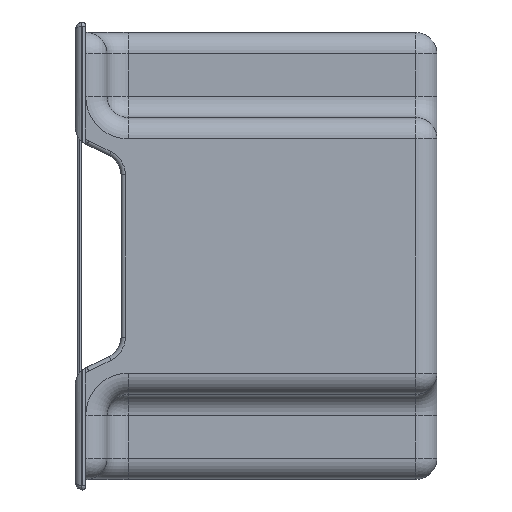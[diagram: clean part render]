
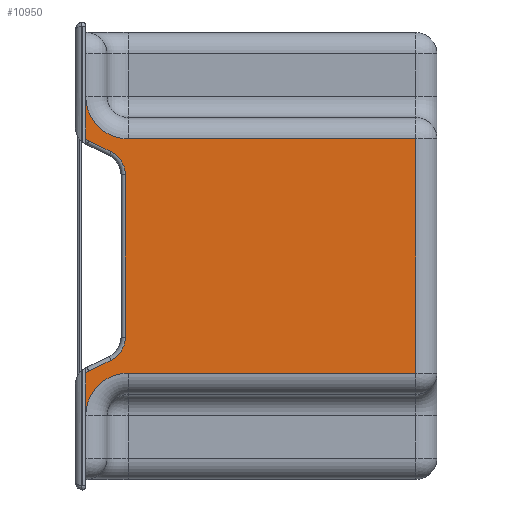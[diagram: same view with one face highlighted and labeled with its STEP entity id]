
A CAD part, left-side view. The second image highlights one B-rep face of the part: STEP entity #10950.
In plain terms, the highlighted planar face has unit normal (-1, 0, 0).
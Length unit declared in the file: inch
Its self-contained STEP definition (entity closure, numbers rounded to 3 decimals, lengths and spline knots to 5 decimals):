
#86 = CARTESIAN_POINT ( 'NONE',  ( 0.25, 0.52765, 6.57002 ) ) ;
#157 = ORIENTED_EDGE ( 'NONE', *, *, #2538, .F. ) ;
#170 = DIRECTION ( 'NONE',  ( -1., 0., 0. ) ) ;
#208 = ORIENTED_EDGE ( 'NONE', *, *, #2572, .T. ) ;
#548 = CIRCLE ( 'NONE', #1623, 0.6 ) ;
#666 = CARTESIAN_POINT ( 'NONE',  ( 0.25, 0., 8.25 ) ) ;
#749 = VERTEX_POINT ( 'NONE', #9685 ) ;
#752 = DIRECTION ( 'NONE',  ( 1., 0., 0. ) ) ;
#823 = CARTESIAN_POINT ( 'NONE',  ( 0.25, 7.25, 8.25 ) ) ;
#875 = ORIENTED_EDGE ( 'NONE', *, *, #2398, .T. ) ;
#920 = VERTEX_POINT ( 'NONE', #2660 ) ;
#1063 = DIRECTION ( 'NONE',  ( 0., 0., 1. ) ) ;
#1145 = LINE ( 'NONE', #666, #5851 ) ;
#1221 = VECTOR ( 'NONE', #1063, 39.37008 ) ;
#1391 = ORIENTED_EDGE ( 'NONE', *, *, #2466, .T. ) ;
#1423 = LINE ( 'NONE', #8619, #3840 ) ;
#1434 = LINE ( 'NONE', #2985, #3571 ) ;
#1623 = AXIS2_PLACEMENT_3D ( 'NONE', #7022, #1769, #7899 ) ;
#1769 = DIRECTION ( 'NONE',  ( -1., 0., 0. ) ) ;
#1999 = CIRCLE ( 'NONE', #4040, 1. ) ;
#2020 = CARTESIAN_POINT ( 'NONE',  ( 0.25, 7.25, 1.75 ) ) ;
#2376 = PLANE ( 'NONE',  #9064 ) ;
#2398 = EDGE_CURVE ( 'NONE', #8668, #3913, #6669, .T. ) ;
#2411 = EDGE_CURVE ( 'NONE', #3913, #10382, #10747, .T. ) ;
#2414 = EDGE_CURVE ( 'NONE', #5080, #9005, #1999, .T. ) ;
#2425 = VECTOR ( 'NONE', #3555, 39.37008 ) ;
#2441 = EDGE_CURVE ( 'NONE', #9005, #2675, #10466, .T. ) ;
#2466 = EDGE_CURVE ( 'NONE', #2675, #920, #1434, .T. ) ;
#2484 = EDGE_CURVE ( 'NONE', #2569, #920, #1145, .T. ) ;
#2495 = EDGE_CURVE ( 'NONE', #4382, #2569, #3279, .T. ) ;
#2502 = EDGE_CURVE ( 'NONE', #9561, #10894, #5578, .T. ) ;
#2538 = EDGE_CURVE ( 'NONE', #749, #9561, #9668, .T. ) ;
#2552 = EDGE_CURVE ( 'NONE', #3044, #749, #548, .T. ) ;
#2556 = EDGE_CURVE ( 'NONE', #3044, #5487, #7074, .T. ) ;
#2569 = VERTEX_POINT ( 'NONE', #823 ) ;
#2572 = EDGE_CURVE ( 'NONE', #5487, #8668, #9121, .T. ) ;
#2660 = CARTESIAN_POINT ( 'NONE',  ( 0.25, 0.5, 8.25 ) ) ;
#2675 = VERTEX_POINT ( 'NONE', #4018 ) ;
#2866 = EDGE_CURVE ( 'NONE', #10382, #5080, #1423, .T. ) ;
#2941 = DIRECTION ( 'NONE',  ( 0., 0., -1. ) ) ;
#2985 = CARTESIAN_POINT ( 'NONE',  ( 0.25, 0.5, 5.50004 ) ) ;
#3019 = CARTESIAN_POINT ( 'NONE',  ( 0.25, 8.17692, 8.20217 ) ) ;
#3044 = VERTEX_POINT ( 'NONE', #6661 ) ;
#3136 = FACE_OUTER_BOUND ( 'NONE', #8909, .T. ) ;
#3229 = AXIS2_PLACEMENT_3D ( 'NONE', #5526, #170, #6401 ) ;
#3279 = CIRCLE ( 'NONE', #11363, 1. ) ;
#3342 = ORIENTED_EDGE ( 'NONE', *, *, #2411, .T. ) ;
#3352 = CARTESIAN_POINT ( 'NONE',  ( 0.25, 0., 2.75 ) ) ;
#3480 = CARTESIAN_POINT ( 'NONE',  ( 0.25, 7.25, 9.25 ) ) ;
#3518 = CARTESIAN_POINT ( 'NONE',  ( 0.25, 0.52765, 4.42998 ) ) ;
#3555 = DIRECTION ( 'NONE',  ( 0., 0., -1. ) ) ;
#3571 = VECTOR ( 'NONE', #10295, 39.37008 ) ;
#3840 = VECTOR ( 'NONE', #6870, 39.37008 ) ;
#3913 = VERTEX_POINT ( 'NONE', #5127 ) ;
#4018 = CARTESIAN_POINT ( 'NONE',  ( 0.25, 0.5, 2.75 ) ) ;
#4040 = AXIS2_PLACEMENT_3D ( 'NONE', #2020, #8148, #2941 ) ;
#4298 = CARTESIAN_POINT ( 'NONE',  ( 0.25, 8.25, 9.25 ) ) ;
#4326 = DIRECTION ( 'NONE',  ( 0., 0., 1. ) ) ;
#4382 = VERTEX_POINT ( 'NONE', #4298 ) ;
#4468 = CARTESIAN_POINT ( 'NONE',  ( 0.25, 8.25, 2.75133 ) ) ;
#4481 = DIRECTION ( 'NONE',  ( 1., 0., 0. ) ) ;
#4617 = CARTESIAN_POINT ( 'NONE',  ( 0.25, 8.25, 5.49996 ) ) ;
#5034 = VECTOR ( 'NONE', #6105, 39.37008 ) ;
#5080 = VERTEX_POINT ( 'NONE', #6953 ) ;
#5098 = ORIENTED_EDGE ( 'NONE', *, *, #2495, .F. ) ;
#5127 = CARTESIAN_POINT ( 'NONE',  ( 0.25, 8.17692, 2.79783 ) ) ;
#5320 = CARTESIAN_POINT ( 'NONE',  ( 0.25, 7.25, 2.75 ) ) ;
#5487 = VERTEX_POINT ( 'NONE', #6025 ) ;
#5526 = CARTESIAN_POINT ( 'NONE',  ( 0.25, 8., 2.43908 ) ) ;
#5537 = ORIENTED_EDGE ( 'NONE', *, *, #2552, .F. ) ;
#5578 = CIRCLE ( 'NONE', #8823, 0.4 ) ;
#5851 = VECTOR ( 'NONE', #9464, 39.37008 ) ;
#5904 = DIRECTION ( 'NONE',  ( 0., 0., -1. ) ) ;
#5989 = EDGE_CURVE ( 'NONE', #10894, #4382, #7965, .T. ) ;
#6025 = CARTESIAN_POINT ( 'NONE',  ( 0.25, 7.31998, 3.59353 ) ) ;
#6066 = CARTESIAN_POINT ( 'NONE',  ( 0.25, 8., 8.56092 ) ) ;
#6105 = DIRECTION ( 'NONE',  ( 0., 0.897, 0.442 ) ) ;
#6120 = VECTOR ( 'NONE', #9428, 39.37008 ) ;
#6401 = DIRECTION ( 'NONE',  ( 0., 0., -1. ) ) ;
#6404 = VECTOR ( 'NONE', #10694, 39.37008 ) ;
#6661 = CARTESIAN_POINT ( 'NONE',  ( 0.25, 7.31998, 7.40647 ) ) ;
#6669 = LINE ( 'NONE', #86, #6404 ) ;
#6690 = ORIENTED_EDGE ( 'NONE', *, *, #2866, .T. ) ;
#6870 = DIRECTION ( 'NONE',  ( 0., 0., -1. ) ) ;
#6948 = DIRECTION ( 'NONE',  ( 0., 0., 1. ) ) ;
#6953 = CARTESIAN_POINT ( 'NONE',  ( 0.25, 8.25, 1.75 ) ) ;
#6961 = ORIENTED_EDGE ( 'NONE', *, *, #2441, .T. ) ;
#7022 = CARTESIAN_POINT ( 'NONE',  ( 0.25, 7.91998, 7.40647 ) ) ;
#7074 = LINE ( 'NONE', #9615, #2425 ) ;
#7355 = CARTESIAN_POINT ( 'NONE',  ( 0.25, 7.6546, 3.0554 ) ) ;
#7623 = CARTESIAN_POINT ( 'NONE',  ( 0.25, 0., 5.50004 ) ) ;
#7899 = DIRECTION ( 'NONE',  ( 0., 0., 1. ) ) ;
#7944 = ORIENTED_EDGE ( 'NONE', *, *, #2556, .T. ) ;
#7965 = LINE ( 'NONE', #4617, #1221 ) ;
#8148 = DIRECTION ( 'NONE',  ( 1., 0., 0. ) ) ;
#8619 = CARTESIAN_POINT ( 'NONE',  ( 0.25, 8.25, 5.50004 ) ) ;
#8668 = VERTEX_POINT ( 'NONE', #7355 ) ;
#8823 = AXIS2_PLACEMENT_3D ( 'NONE', #6066, #752, #6948 ) ;
#8909 = EDGE_LOOP ( 'NONE', ( #875, #3342, #6690, #9543, #6961, #1391, #9420, #5098, #9056, #10480, #157, #5537, #7944, #208 ) ) ;
#9005 = VERTEX_POINT ( 'NONE', #5320 ) ;
#9056 = ORIENTED_EDGE ( 'NONE', *, *, #5989, .F. ) ;
#9064 = AXIS2_PLACEMENT_3D ( 'NONE', #7623, #11087, #5904 ) ;
#9121 = CIRCLE ( 'NONE', #9261, 0.6 ) ;
#9261 = AXIS2_PLACEMENT_3D ( 'NONE', #9695, #4481, #10550 ) ;
#9293 = CARTESIAN_POINT ( 'NONE',  ( 0.25, 8.25, 8.24867 ) ) ;
#9420 = ORIENTED_EDGE ( 'NONE', *, *, #2484, .F. ) ;
#9428 = DIRECTION ( 'NONE',  ( 0., -1., 0. ) ) ;
#9464 = DIRECTION ( 'NONE',  ( 0., -1., 0. ) ) ;
#9537 = DIRECTION ( 'NONE',  ( -1., 0., 0. ) ) ;
#9543 = ORIENTED_EDGE ( 'NONE', *, *, #2414, .T. ) ;
#9561 = VERTEX_POINT ( 'NONE', #3019 ) ;
#9615 = CARTESIAN_POINT ( 'NONE',  ( 0.25, 7.31998, 5.50004 ) ) ;
#9668 = LINE ( 'NONE', #3518, #5034 ) ;
#9685 = CARTESIAN_POINT ( 'NONE',  ( 0.25, 7.6546, 7.9446 ) ) ;
#9695 = CARTESIAN_POINT ( 'NONE',  ( 0.25, 7.91998, 3.59353 ) ) ;
#10295 = DIRECTION ( 'NONE',  ( 0., 0., 1. ) ) ;
#10382 = VERTEX_POINT ( 'NONE', #4468 ) ;
#10466 = LINE ( 'NONE', #3352, #6120 ) ;
#10480 = ORIENTED_EDGE ( 'NONE', *, *, #2502, .F. ) ;
#10550 = DIRECTION ( 'NONE',  ( 0., 0., -1. ) ) ;
#10694 = DIRECTION ( 'NONE',  ( 0., 0.897, -0.442 ) ) ;
#10747 = CIRCLE ( 'NONE', #3229, 0.4 ) ;
#10894 = VERTEX_POINT ( 'NONE', #9293 ) ;
#10950 = ADVANCED_FACE ( 'NONE', ( #3136 ), #2376, .F. ) ;
#11087 = DIRECTION ( 'NONE',  ( 1., 0., 0. ) ) ;
#11363 = AXIS2_PLACEMENT_3D ( 'NONE', #3480, #9537, #4326 ) ;
